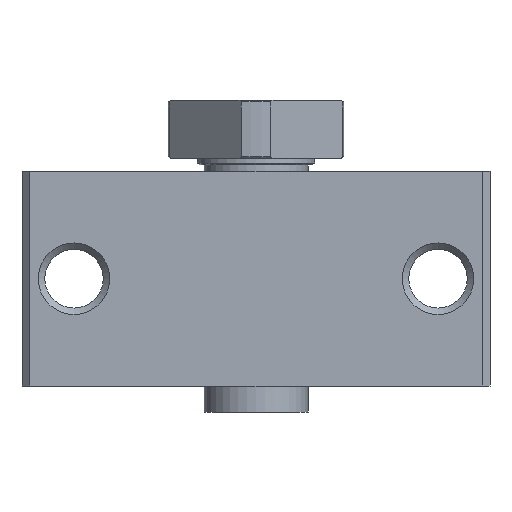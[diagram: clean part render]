
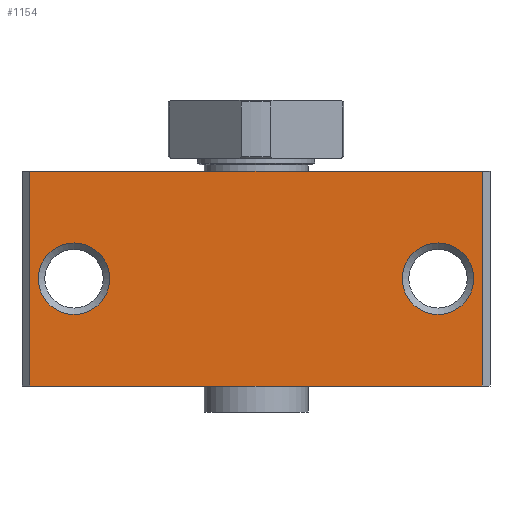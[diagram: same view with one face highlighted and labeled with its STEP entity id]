
A CAD part, front view. The second image highlights one B-rep face of the part: STEP entity #1154.
In plain terms, the highlighted planar face has unit normal (0, -1, 0).
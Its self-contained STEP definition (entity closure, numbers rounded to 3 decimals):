
#89=LINE('',#1774,#167);
#93=LINE('',#1790,#171);
#107=LINE('',#1824,#185);
#108=LINE('',#1830,#186);
#167=VECTOR('',#1416,1000.);
#171=VECTOR('',#1430,1000.);
#185=VECTOR('',#1456,1000.);
#186=VECTOR('',#1463,1000.);
#239=PLANE('',#1275);
#317=ORIENTED_EDGE('',*,*,#614,.F.);
#318=ORIENTED_EDGE('',*,*,#615,.F.);
#319=ORIENTED_EDGE('',*,*,#596,.F.);
#320=ORIENTED_EDGE('',*,*,#613,.F.);
#321=ORIENTED_EDGE('',*,*,#589,.T.);
#322=ORIENTED_EDGE('',*,*,#616,.T.);
#589=EDGE_CURVE('',#741,#740,#89,.T.);
#596=EDGE_CURVE('',#747,#748,#93,.T.);
#613=EDGE_CURVE('',#741,#747,#107,.T.);
#614=EDGE_CURVE('',#762,#762,#847,.T.);
#615=EDGE_CURVE('',#763,#763,#848,.T.);
#616=EDGE_CURVE('',#740,#748,#108,.T.);
#740=VERTEX_POINT('',#1773);
#741=VERTEX_POINT('',#1775);
#747=VERTEX_POINT('',#1789);
#748=VERTEX_POINT('',#1791);
#762=VERTEX_POINT('',#1827);
#763=VERTEX_POINT('',#1829);
#847=CIRCLE('',#1276,2.75);
#848=CIRCLE('',#1277,2.75);
#903=EDGE_LOOP('',(#317));
#904=EDGE_LOOP('',(#318));
#905=EDGE_LOOP('',(#319,#320,#321,#322));
#1021=FACE_BOUND('',#903,.T.);
#1022=FACE_BOUND('',#904,.T.);
#1023=FACE_BOUND('',#905,.T.);
#1154=ADVANCED_FACE('',(#1021,#1022,#1023),#239,.T.);
#1275=AXIS2_PLACEMENT_3D('',#1825,#1457,#1458);
#1276=AXIS2_PLACEMENT_3D('',#1826,#1459,#1460);
#1277=AXIS2_PLACEMENT_3D('',#1828,#1461,#1462);
#1416=DIRECTION('',(1.,0.,0.));
#1430=DIRECTION('',(1.,0.,0.));
#1456=DIRECTION('',(0.,0.,1.));
#1457=DIRECTION('',(0.,-1.,0.));
#1458=DIRECTION('',(0.,0.,-1.));
#1459=DIRECTION('',(0.,-1.,0.));
#1460=DIRECTION('',(0.,0.,-1.));
#1461=DIRECTION('',(0.,-1.,0.));
#1462=DIRECTION('',(0.,0.,-1.));
#1463=DIRECTION('',(0.,0.,1.));
#1773=CARTESIAN_POINT('',(17.4,-11.,-16.5));
#1774=CARTESIAN_POINT('',(-17.4,-11.,-16.5));
#1775=CARTESIAN_POINT('',(-17.4,-11.,-16.5));
#1789=CARTESIAN_POINT('',(-17.4,-11.,0.));
#1790=CARTESIAN_POINT('',(-17.4,-11.,0.));
#1791=CARTESIAN_POINT('',(17.4,-11.,0.));
#1824=CARTESIAN_POINT('',(-17.4,-11.,-16.5));
#1825=CARTESIAN_POINT('',(-17.4,-11.,-16.5));
#1826=CARTESIAN_POINT('',(14.,-11.,-8.25));
#1827=CARTESIAN_POINT('',(14.,-11.,-11.));
#1828=CARTESIAN_POINT('',(-14.,-11.,-8.25));
#1829=CARTESIAN_POINT('',(-14.,-11.,-11.));
#1830=CARTESIAN_POINT('',(17.4,-11.,-16.5));
